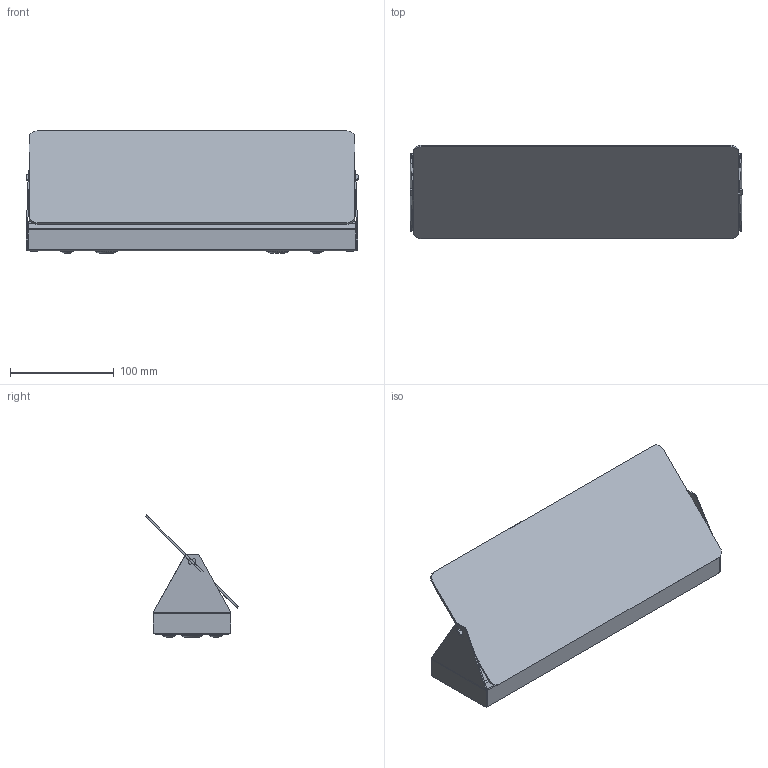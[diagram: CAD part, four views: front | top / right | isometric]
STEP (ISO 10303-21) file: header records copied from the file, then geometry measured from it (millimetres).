
FILE_DESCRIPTION (( 'STEP AP214' ), '1' );
FILE_NAME ('3D_APPLIQUE_A_VOLET_PIVOTANT_DOUBLE_LED.STEP', '2018-03-23T09:26:53', ( 'Utente' ), ( '' ), 'SwSTEP 2.0', 'SolidWorks 2016', '' );
FILE_SCHEMA (( 'AUTOMOTIVE_DESIGN' ));
Length unit declared in the file: millimetre
Products named in the file (4): Group3^3D_APPLIQUE_A_VOLET_PIVOTANT_DOUBLE_LED; Group1^3D_APPLIQUE_A_VOLET_PIVOTANT_DOUBLE_LED; 3D_APPLIQUE_A_VOLET_PIVOTANT_DOUBLE_LED; 010AVP700331 VOLE DOUBLEmarti-1^3D_APPLIQUE_A_VOLET_PIVOTANT_DOUBLE_LED
Assembly tree (3 placements, depth 2):
  3D_APPLIQUE_A_VOLET_PIVOTANT_DOUBLE_LED
    Group1^3D_APPLIQUE_A_VOLET_PIVOTANT_DOUBLE_LED
    Group3^3D_APPLIQUE_A_VOLET_PIVOTANT_DOUBLE_LED
    010AVP700331 VOLE DOUBLEmarti-1^3D_APPLIQUE_A_VOLET_PIVOTANT_DOUBLE_LED
Bounding box: 320 x 89.8 x 117.6 mm (x, y, z)
Volume: 180336.5 mm3; surface area: 254761.6 mm2
Topology: 5 solids, 5 shells, 309 faces, 715 edges, 432 vertices
Faces by surface type: plane 147, cylinder 90, cone 36, torus 32, bspline 4
Entity records: 9013 total; most frequent: DIRECTION 1617, CARTESIAN_POINT 1514, ORIENTED_EDGE 1430, EDGE_CURVE 715, AXIS2_PLACEMENT_3D 599, VERTEX_POINT 432, LINE 419, VECTOR 419
